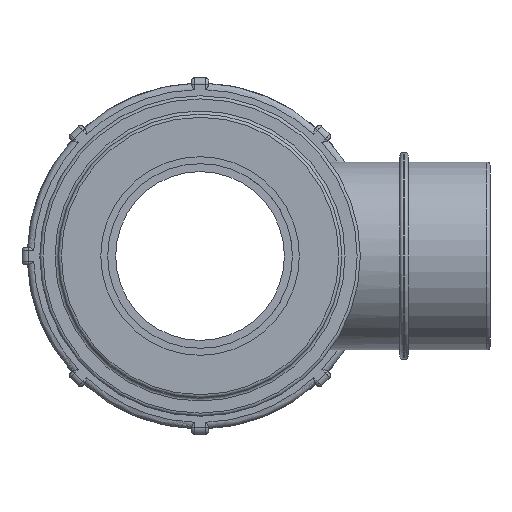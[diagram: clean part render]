
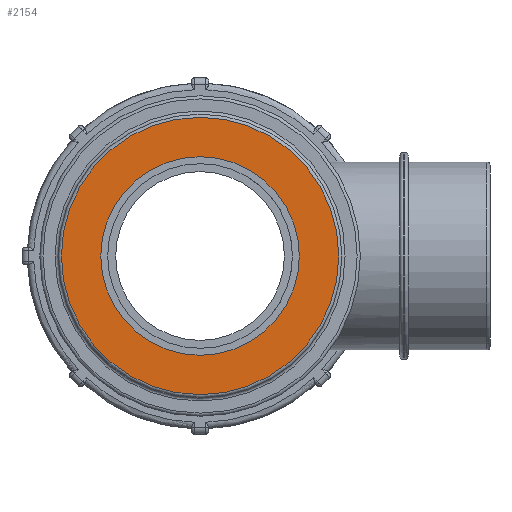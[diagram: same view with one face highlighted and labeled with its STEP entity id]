
A CAD part, left-side view. The second image highlights one B-rep face of the part: STEP entity #2154.
In plain terms, the highlighted planar face has unit normal (-1, 0, 0).
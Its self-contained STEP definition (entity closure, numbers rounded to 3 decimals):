
#271=PLANE('',#2311);
#384=FACE_BOUND('',#594,.T.);
#439=FACE_OUTER_BOUND('',#593,.T.);
#593=EDGE_LOOP('',(#1479));
#594=EDGE_LOOP('',(#1480));
#794=CIRCLE('',#2307,44.);
#797=CIRCLE('',#2312,31.5);
#951=VERTEX_POINT('',#3369);
#954=VERTEX_POINT('',#3377);
#1165=EDGE_CURVE('',#951,#951,#794,.T.);
#1168=EDGE_CURVE('',#954,#954,#797,.T.);
#1479=ORIENTED_EDGE('',*,*,#1165,.F.);
#1480=ORIENTED_EDGE('',*,*,#1168,.T.);
#2154=ADVANCED_FACE('',(#439,#384),#271,.T.);
#2307=AXIS2_PLACEMENT_3D('',#3370,#2603,#2604);
#2311=AXIS2_PLACEMENT_3D('',#3376,#2611,#2612);
#2312=AXIS2_PLACEMENT_3D('',#3378,#2613,#2614);
#2603=DIRECTION('center_axis',(1.,0.,0.));
#2604=DIRECTION('ref_axis',(0.,-1.,0.));
#2611=DIRECTION('center_axis',(-1.,0.,0.));
#2612=DIRECTION('ref_axis',(0.,0.,1.));
#2613=DIRECTION('center_axis',(1.,0.,0.));
#2614=DIRECTION('ref_axis',(0.,0.,-1.));
#3369=CARTESIAN_POINT('',(-95.95,44.,0.));
#3370=CARTESIAN_POINT('Origin',(-95.95,0.,0.));
#3376=CARTESIAN_POINT('Origin',(-95.95,45.,0.));
#3377=CARTESIAN_POINT('',(-95.95,31.5,0.));
#3378=CARTESIAN_POINT('Origin',(-95.95,0.,0.));
